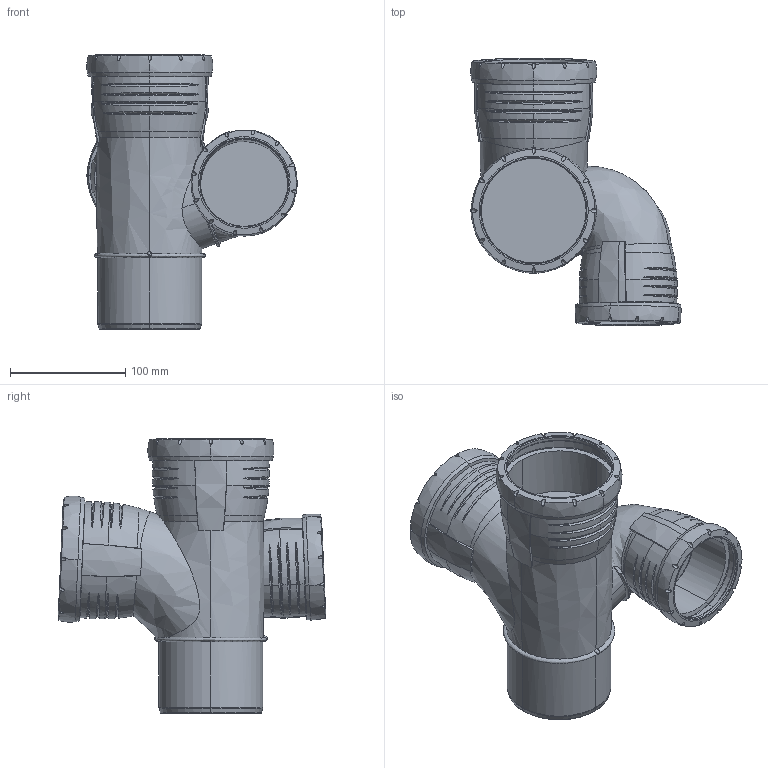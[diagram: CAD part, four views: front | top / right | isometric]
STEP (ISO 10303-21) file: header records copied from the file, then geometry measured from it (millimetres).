
FILE_DESCRIPTION(/* description */ (''),/* implementation_level */ '2;1');
FILE_NAME(/* name */ 'H:\Geberit-Teile\Export\Silent\stp\393463.stp',/* time_stamp */ '2017-03-30T11:40:52+02:00',/* author */ ('seihe2'),/* organization */ (''),/* preprocessor_version */ 'ST-DEVELOPER v15.2',/* originating_system */ 'Autodesk Inventor 2014',/* authorisation */ '');
FILE_SCHEMA (('AUTOMOTIVE_DESIGN { 1 0 10303 214 3 1 1 }'));
Length unit declared in the file: millimetre
Products named in the file (1): 393463
Bounding box: 182.79 x 232.09 x 237.95 mm (x, y, z)
Volume: 1150257.4 mm3; surface area: 284311 mm2
Topology: 1 solids, 1 shells, 515 faces, 1421 edges, 865 vertices
Faces by surface type: bspline 234, cone 118, cylinder 62, plane 51, torus 47, sphere 3
Entity records: 30032 total; most frequent: CARTESIAN_POINT 18500, ORIENTED_EDGE 2774, DIRECTION 1775, EDGE_CURVE 1387, VERTEX_POINT 864, AXIS2_PLACEMENT_3D 807, B_SPLINE_CURVE_WITH_KNOTS 670, CIRCLE 523
